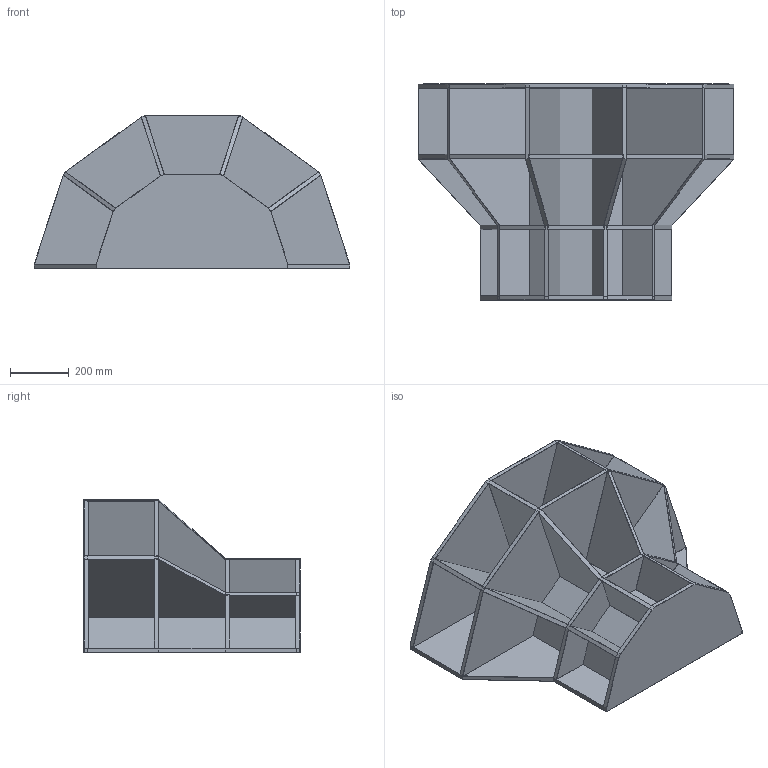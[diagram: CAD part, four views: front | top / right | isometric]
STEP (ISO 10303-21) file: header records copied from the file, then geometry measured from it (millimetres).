
FILE_DESCRIPTION (( 'STEP AP203' ), '1' );
FILE_NAME ('HAKU CONSOLE.STEP', '2023-03-21T12:43:00', ( '' ), ( '' ), 'SwSTEP 2.0', 'SolidWorks 2023', '' );
FILE_SCHEMA (( 'CONFIG_CONTROL_DESIGN' ));
Length unit declared in the file: millimetre
Products named in the file (2): Group1^HAKU CONSOLE; HAKU CONSOLE
Assembly tree (1 placements, depth 2):
  HAKU CONSOLE
    Group1^HAKU CONSOLE
Bounding box: 1072.88 x 735 x 520 mm (x, y, z)
Volume: 37151106.4 mm3; surface area: 5542647.2 mm2
Topology: 25 solids, 25 shells, 526 faces, 1352 edges, 876 vertices
Faces by surface type: plane 486, cylinder 40
Entity records: 15756 total; most frequent: CARTESIAN_POINT 2758, ORIENTED_EDGE 2704, DIRECTION 2492, EDGE_CURVE 1352, LINE 1272, VECTOR 1272, VERTEX_POINT 876, AXIS2_PLACEMENT_3D 610
